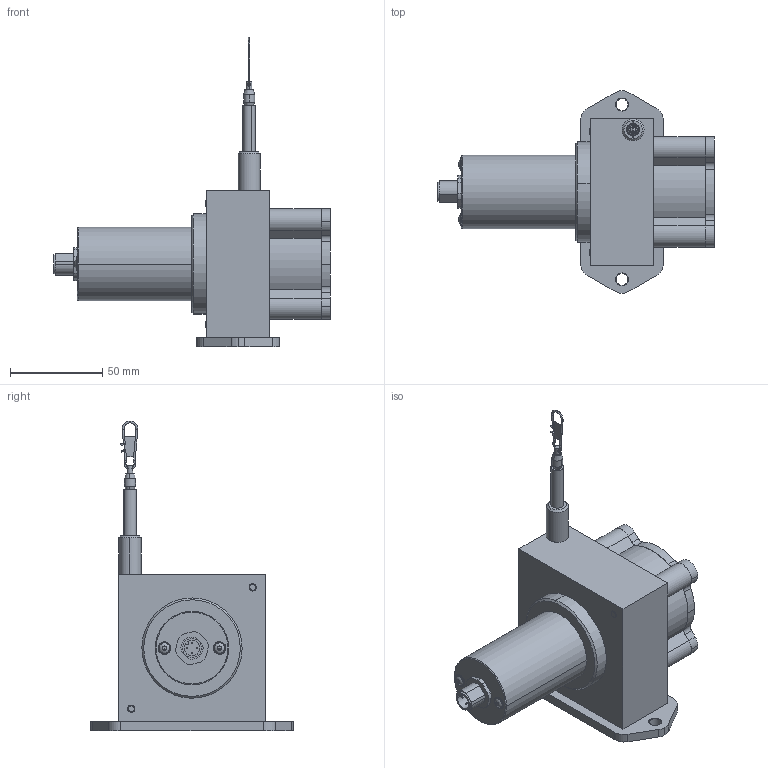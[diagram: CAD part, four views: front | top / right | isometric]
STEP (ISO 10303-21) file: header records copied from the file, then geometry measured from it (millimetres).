
FILE_DESCRIPTION (( 'STEP AP214' ), '1' );
FILE_NAME ('D8.3B1.0200.A113.0000.STEP', '2010-11-24T10:55:33', ( 'admin' ), ( 'Fritz Kübler GmbH' ), 'SwSTEP 2.0', 'SolidWorks 2009', '' );
FILE_SCHEMA (( 'AUTOMOTIVE_DESIGN' ));
Length unit declared in the file: millimetre
Products named in the file (1): D8.3B1.0200.A113.0000
Bounding box: 150.5 x 110 x 168.32 mm (x, y, z)
Surface area: 59799.3 mm2 (no closed solid volume)
Topology: 0 solids, 28 shells, 360 faces, 1069 edges, 719 vertices
Faces by surface type: plane 174, cylinder 112, cone 40, torus 25, bspline 6, sphere 3
Entity records: 19748 total; most frequent: CARTESIAN_POINT 6416, ORIENTED_EDGE 1906, DIRECTION 1882, EDGE_CURVE 1055, VERTEX_POINT 717, AXIS2_PLACEMENT_3D 681, VECTOR 520, LINE 520
